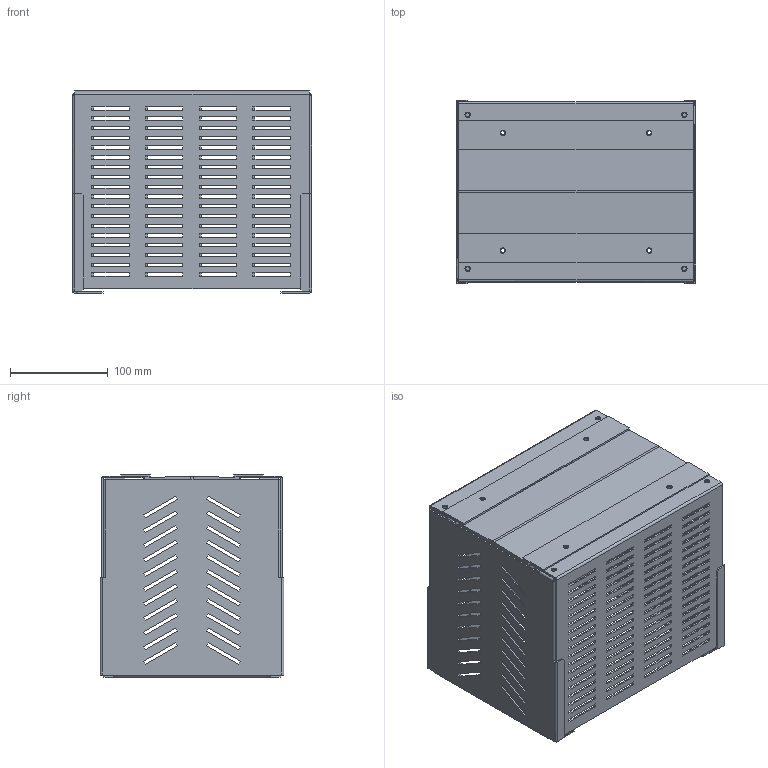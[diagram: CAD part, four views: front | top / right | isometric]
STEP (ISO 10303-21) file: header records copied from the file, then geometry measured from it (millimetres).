
FILE_DESCRIPTION(('CAx-IF Rec.Pracs.---Model Styling and Organization---1.2---2011-12-15','CAx-IF Rec.Pracs.---Geometric and Assembly Validation Properties---4.1---2014-06-16','CAx-IF Rec.Pracs.---PMI Polyline Presentation---2.0---2013-05-24'),'2;1');
FILE_NAME('R5BCB20016.stp','2021-05-05T15:03:02+03:00',(''),(''),'STEP Interface 4.4 by CT CoreTechnologie','3D_Evolution4.4 by CT CoreTechnologie','');
FILE_SCHEMA(('AUTOMOTIVE_DESIGN { 1 0 10303 214 1 1 1 1 }'));
Length unit declared in the file: millimetre
Products named in the file (7): R5BCB20016; R5IB_R5IB12(1); R5IB aluminium_-01; R5IB brush; R5IB_R5IB12(2); RB.0577.00.00.1_-00; RB.0579.00.00.1_-00
Assembly tree (10 placements, depth 3):
  R5BCB20016
    R5IB_R5IB12(1)
      R5IB aluminium_-01
      R5IB brush
    R5IB_R5IB12(2)
      R5IB brush
      R5IB aluminium_-01
    RB.0577.00.00.1_-00  x2
    RB.0579.00.00.1_-00  x2
Bounding box: 245 x 188.2 x 207.1 mm (x, y, z)
Surface area: 488722.3 mm2 (no closed solid volume)
Topology: 0 solids, 14 shells, 1050 faces, 3038 edges, 2016 vertices
Faces by surface type: plane 982, cylinder 68
Entity records: 17749 total; most frequent: CARTESIAN_POINT 3078, ORIENTED_EDGE 3038, DIRECTION 2657, EDGE_CURVE 1519, VECTOR 1451, LINE 1451, VERTEX_POINT 1008, EDGE_LOOP 733
